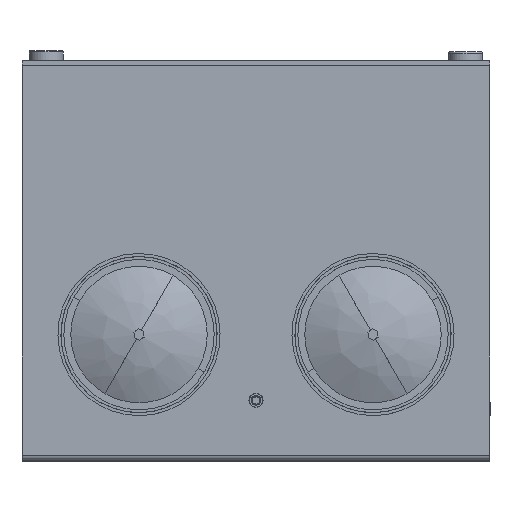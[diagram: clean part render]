
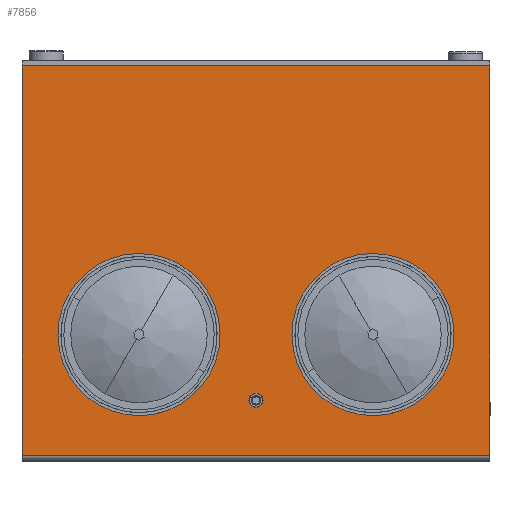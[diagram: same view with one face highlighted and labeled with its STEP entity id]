
A CAD part, top view. The second image highlights one B-rep face of the part: STEP entity #7856.
In plain terms, the highlighted planar face has unit normal (0, 0, 1) as drawn and (-1, 0, 0) by its records, which use the part's own axes.
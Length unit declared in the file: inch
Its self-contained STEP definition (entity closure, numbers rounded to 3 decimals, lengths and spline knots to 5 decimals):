
#57 = DIRECTION ( 'NONE',  ( 0., 0., -1. ) ) ;
#60 = CARTESIAN_POINT ( 'NONE',  ( -0.375, 0., 48. ) ) ;
#135 = PLANE ( 'NONE',  #6336 ) ;
#148 = EDGE_LOOP ( 'NONE', ( #7678, #2247 ) ) ;
#164 = CARTESIAN_POINT ( 'NONE',  ( -0.375, 12.5, 36. ) ) ;
#214 = FACE_BOUND ( 'NONE', #148, .T. ) ;
#361 = AXIS2_PLACEMENT_3D ( 'NONE', #3049, #6771, #4868 ) ;
#465 = CIRCLE ( 'NONE', #2441, 7. ) ;
#467 = ORIENTED_EDGE ( 'NONE', *, *, #2695, .F. ) ;
#726 = EDGE_CURVE ( 'NONE', #7026, #5507, #3841, .T. ) ;
#843 = CARTESIAN_POINT ( 'NONE',  ( -0.375, 0., 48. ) ) ;
#948 = DIRECTION ( 'NONE',  ( 0., 0., -1. ) ) ;
#1102 = EDGE_CURVE ( 'NONE', #3754, #1816, #4272, .T. ) ;
#1182 = CARTESIAN_POINT ( 'NONE',  ( -0.375, 5.75, 24. ) ) ;
#1224 = DIRECTION ( 'NONE',  ( -1., 0., 0. ) ) ;
#1344 = DIRECTION ( 'NONE',  ( 1., 0., 0. ) ) ;
#1351 = ORIENTED_EDGE ( 'NONE', *, *, #2257, .F. ) ;
#1401 = CARTESIAN_POINT ( 'NONE',  ( -0.375, 5.75, 23.28 ) ) ;
#1412 = DIRECTION ( 'NONE',  ( -1., 0., 0. ) ) ;
#1563 = CIRCLE ( 'NONE', #7232, 0.72 ) ;
#1739 = VERTEX_POINT ( 'NONE', #3644 ) ;
#1816 = VERTEX_POINT ( 'NONE', #1873 ) ;
#1829 = ORIENTED_EDGE ( 'NONE', *, *, #6634, .F. ) ;
#1873 = CARTESIAN_POINT ( 'NONE',  ( -0.375, 0.125, 0. ) ) ;
#1931 = VERTEX_POINT ( 'NONE', #6470 ) ;
#2247 = ORIENTED_EDGE ( 'NONE', *, *, #726, .F. ) ;
#2257 = EDGE_CURVE ( 'NONE', #3384, #4744, #465, .T. ) ;
#2307 = DIRECTION ( 'NONE',  ( -1., 0., 0. ) ) ;
#2441 = AXIS2_PLACEMENT_3D ( 'NONE', #4727, #6495, #7247 ) ;
#2471 = CIRCLE ( 'NONE', #361, 7. ) ;
#2503 = DIRECTION ( 'NONE',  ( 0., -1., 0. ) ) ;
#2612 = ORIENTED_EDGE ( 'NONE', *, *, #4684, .F. ) ;
#2672 = EDGE_LOOP ( 'NONE', ( #2612, #1829 ) ) ;
#2695 = EDGE_CURVE ( 'NONE', #4744, #3384, #2471, .T. ) ;
#2699 = CIRCLE ( 'NONE', #4160, 7. ) ;
#3049 = CARTESIAN_POINT ( 'NONE',  ( -0.375, 12.5, 12. ) ) ;
#3384 = VERTEX_POINT ( 'NONE', #4931 ) ;
#3603 = CARTESIAN_POINT ( 'NONE',  ( -0.375, 40.12, 0. ) ) ;
#3621 = CARTESIAN_POINT ( 'NONE',  ( -0.375, 12.5, 36. ) ) ;
#3644 = CARTESIAN_POINT ( 'NONE',  ( -0.375, 12.5, 43. ) ) ;
#3651 = EDGE_LOOP ( 'NONE', ( #7712, #6631, #7151, #5596 ) ) ;
#3754 = VERTEX_POINT ( 'NONE', #3603 ) ;
#3841 = CIRCLE ( 'NONE', #8043, 0.72 ) ;
#3945 = VERTEX_POINT ( 'NONE', #4421 ) ;
#3949 = FACE_BOUND ( 'NONE', #2672, .T. ) ;
#4065 = VECTOR ( 'NONE', #948, 39.37008 ) ;
#4084 = DIRECTION ( 'NONE',  ( -1., 0., 0. ) ) ;
#4091 = CARTESIAN_POINT ( 'NONE',  ( -0.375, 0.125, 48. ) ) ;
#4160 = AXIS2_PLACEMENT_3D ( 'NONE', #164, #1412, #6439 ) ;
#4197 = CIRCLE ( 'NONE', #7352, 7. ) ;
#4205 = DIRECTION ( 'NONE',  ( 0., 0., 1. ) ) ;
#4272 = LINE ( 'NONE', #4839, #6427 ) ;
#4421 = CARTESIAN_POINT ( 'NONE',  ( -0.375, 40.12, 48. ) ) ;
#4442 = CARTESIAN_POINT ( 'NONE',  ( -0.375, 12.5, 29. ) ) ;
#4450 = VECTOR ( 'NONE', #5804, 39.37008 ) ;
#4515 = EDGE_CURVE ( 'NONE', #3945, #3754, #4657, .T. ) ;
#4526 = EDGE_CURVE ( 'NONE', #1931, #1816, #4741, .T. ) ;
#4657 = LINE ( 'NONE', #6506, #4450 ) ;
#4684 = EDGE_CURVE ( 'NONE', #1739, #4837, #4197, .T. ) ;
#4727 = CARTESIAN_POINT ( 'NONE',  ( -0.375, 12.5, 12. ) ) ;
#4741 = LINE ( 'NONE', #4091, #4065 ) ;
#4744 = VERTEX_POINT ( 'NONE', #6793 ) ;
#4837 = VERTEX_POINT ( 'NONE', #4442 ) ;
#4839 = CARTESIAN_POINT ( 'NONE',  ( -0.375, 0., 0. ) ) ;
#4868 = DIRECTION ( 'NONE',  ( 0., 0., 1. ) ) ;
#4876 = EDGE_CURVE ( 'NONE', #3945, #1931, #5749, .T. ) ;
#4931 = CARTESIAN_POINT ( 'NONE',  ( -0.375, 12.5, 19. ) ) ;
#5108 = EDGE_CURVE ( 'NONE', #5507, #7026, #1563, .T. ) ;
#5507 = VERTEX_POINT ( 'NONE', #5774 ) ;
#5596 = ORIENTED_EDGE ( 'NONE', *, *, #4515, .T. ) ;
#5742 = FACE_OUTER_BOUND ( 'NONE', #3651, .T. ) ;
#5749 = LINE ( 'NONE', #60, #6700 ) ;
#5774 = CARTESIAN_POINT ( 'NONE',  ( -0.375, 5.75, 24.72 ) ) ;
#5804 = DIRECTION ( 'NONE',  ( 0., 0., -1. ) ) ;
#6336 = AXIS2_PLACEMENT_3D ( 'NONE', #843, #1344, #57 ) ;
#6427 = VECTOR ( 'NONE', #6785, 39.37008 ) ;
#6439 = DIRECTION ( 'NONE',  ( 0., 0., 1. ) ) ;
#6470 = CARTESIAN_POINT ( 'NONE',  ( -0.375, 0.125, 48. ) ) ;
#6493 = FACE_BOUND ( 'NONE', #7827, .T. ) ;
#6495 = DIRECTION ( 'NONE',  ( -1., 0., 0. ) ) ;
#6506 = CARTESIAN_POINT ( 'NONE',  ( -0.375, 40.12, 48. ) ) ;
#6629 = DIRECTION ( 'NONE',  ( 0., 0., 1. ) ) ;
#6631 = ORIENTED_EDGE ( 'NONE', *, *, #4526, .F. ) ;
#6634 = EDGE_CURVE ( 'NONE', #4837, #1739, #2699, .T. ) ;
#6700 = VECTOR ( 'NONE', #2503, 39.37008 ) ;
#6771 = DIRECTION ( 'NONE',  ( -1., 0., 0. ) ) ;
#6785 = DIRECTION ( 'NONE',  ( 0., -1., 0. ) ) ;
#6793 = CARTESIAN_POINT ( 'NONE',  ( -0.375, 12.5, 5. ) ) ;
#7026 = VERTEX_POINT ( 'NONE', #1401 ) ;
#7151 = ORIENTED_EDGE ( 'NONE', *, *, #4876, .F. ) ;
#7232 = AXIS2_PLACEMENT_3D ( 'NONE', #1182, #1224, #7416 ) ;
#7247 = DIRECTION ( 'NONE',  ( 0., 0., 1. ) ) ;
#7352 = AXIS2_PLACEMENT_3D ( 'NONE', #3621, #2307, #4205 ) ;
#7406 = CARTESIAN_POINT ( 'NONE',  ( -0.375, 5.75, 24. ) ) ;
#7416 = DIRECTION ( 'NONE',  ( 0., 0., 1. ) ) ;
#7678 = ORIENTED_EDGE ( 'NONE', *, *, #5108, .F. ) ;
#7712 = ORIENTED_EDGE ( 'NONE', *, *, #1102, .T. ) ;
#7827 = EDGE_LOOP ( 'NONE', ( #1351, #467 ) ) ;
#7856 = ADVANCED_FACE ( 'NONE', ( #214, #6493, #3949, #5742 ), #135, .F. ) ;
#8043 = AXIS2_PLACEMENT_3D ( 'NONE', #7406, #4084, #6629 ) ;
